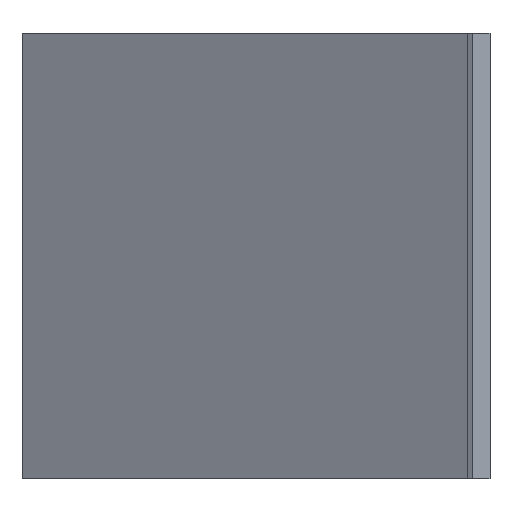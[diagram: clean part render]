
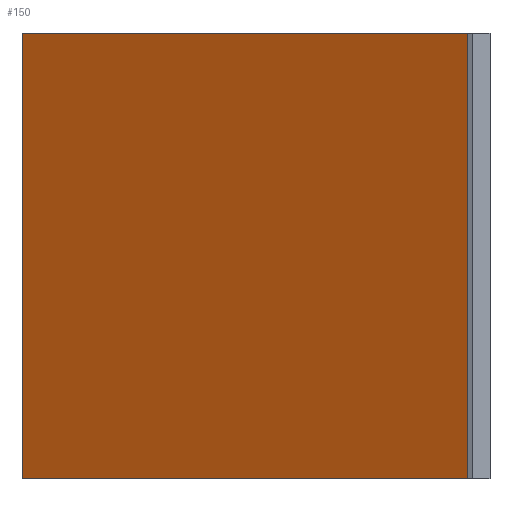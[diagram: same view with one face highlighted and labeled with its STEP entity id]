
A CAD part, left-side view. The second image highlights one B-rep face of the part: STEP entity #150.
In plain terms, the highlighted planar face has unit normal (0.864, -0.504, 0).
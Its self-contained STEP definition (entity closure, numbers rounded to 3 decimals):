
#98=CARTESIAN_POINT('Vertex',(20.,0.,0.)) ;
#101=CARTESIAN_POINT('Line Origine',(20.,0.,50.5)) ;
#105=CARTESIAN_POINT('Vertex',(20.,0.,101.)) ;
#120=CARTESIAN_POINT('Axis2P3D Location',(20.,0.,0.)) ;
#125=CARTESIAN_POINT('Line Origine',(49.5,50.5,0.)) ;
#129=CARTESIAN_POINT('Vertex',(79.,101.,0.)) ;
#132=CARTESIAN_POINT('Line Origine',(79.,101.,50.5)) ;
#136=CARTESIAN_POINT('Vertex',(79.,101.,101.)) ;
#139=CARTESIAN_POINT('Line Origine',(49.5,50.5,101.)) ;
#102=DIRECTION('Vector Direction',(0.,0.,1.)) ;
#121=DIRECTION('Axis2P3D Direction',(0.863,-0.504,0.)) ;
#122=DIRECTION('Axis2P3D XDirection',(0.504,0.863,0.)) ;
#126=DIRECTION('Vector Direction',(0.504,0.863,0.)) ;
#133=DIRECTION('Vector Direction',(0.,0.,1.)) ;
#140=DIRECTION('Vector Direction',(0.504,0.863,0.)) ;
#123=AXIS2_PLACEMENT_3D('Plane Axis2P3D',#120,#121,#122) ;
#145=ORIENTED_EDGE('',*,*,#107,.F.) ;
#146=ORIENTED_EDGE('',*,*,#131,.T.) ;
#147=ORIENTED_EDGE('',*,*,#138,.T.) ;
#148=ORIENTED_EDGE('',*,*,#143,.F.) ;
#103=VECTOR('Line Direction',#102,1.) ;
#127=VECTOR('Line Direction',#126,1.) ;
#134=VECTOR('Line Direction',#133,1.) ;
#141=VECTOR('Line Direction',#140,1.) ;
#150=ADVANCED_FACE('Extrude.1',(#149),#124,.T.) ;
#107=EDGE_CURVE('',#99,#106,#104,.T.) ;
#131=EDGE_CURVE('',#99,#130,#128,.T.) ;
#138=EDGE_CURVE('',#130,#137,#135,.T.) ;
#143=EDGE_CURVE('',#106,#137,#142,.T.) ;
#144=EDGE_LOOP('',(#145,#146,#147,#148)) ;
#149=FACE_OUTER_BOUND('',#144,.T.) ;
#104=LINE('Line',#101,#103) ;
#128=LINE('Line',#125,#127) ;
#135=LINE('Line',#132,#134) ;
#142=LINE('Line',#139,#141) ;
#124=PLANE('',#123) ;
#99=VERTEX_POINT('',#98) ;
#106=VERTEX_POINT('',#105) ;
#130=VERTEX_POINT('',#129) ;
#137=VERTEX_POINT('',#136) ;
